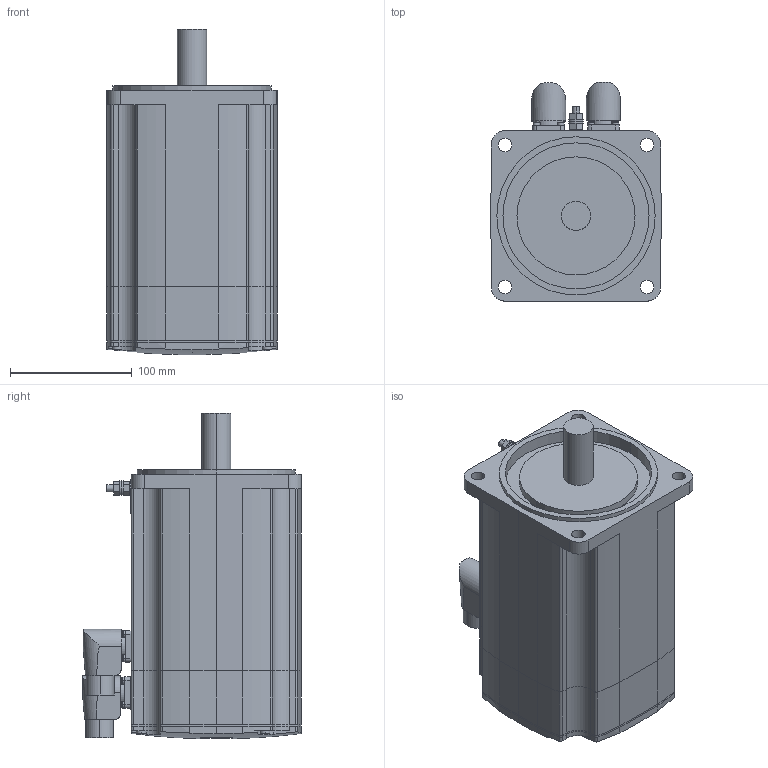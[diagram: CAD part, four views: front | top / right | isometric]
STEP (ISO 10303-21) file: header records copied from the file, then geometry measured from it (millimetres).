
FILE_DESCRIPTION (( 'STEP AP214' ), '1' );
FILE_NAME ('SH31401x0xA2100.STEP', '2013-11-29T10:06:27', ( 'Windows User' ), ( 'Schneider-Electric' ), 'SwSTEP 2.0', 'SolidWorks 2010', '' );
FILE_SCHEMA (( 'AUTOMOTIVE_DESIGN' ));
Length unit declared in the file: millimetre
Products named in the file (8): K-ENCODER-CONINVERS-ABGEW_ENCODER-CONINVERS-ABGEWINKELT_000_Single- MultiTurn; K-POWER-CONINVERS-ABGEWIN_POWER-CONINVERS-ABGEWINKELT_000_ohne Bremse; 1-100009587_K-ERDUNGSBOLZEN M6_VM1; 1-100009130_TOPFGEHÄUSE SH3-140X-X_VM0_Topfgehäuse SH3-1401-A-M23 mit Welle ohne Passfeder; 1-100009292_LAGERSCHILD SH3-140X-A_VM0_Lagerschild SH3-140x-A; 1-100010983_K-FLACHDICHTUNG BMH-MH3-140X_000; 1-100005039_DECKEL SH3-140X-X_VM0_Deckel; SH31401x0xA2100
Assembly tree (7 placements, depth 2):
  SH31401x0xA2100
    1-100009587_K-ERDUNGSBOLZEN M6_VM1
    K-POWER-CONINVERS-ABGEWIN_POWER-CONINVERS-ABGEWINKELT_000_ohne Bremse
    K-ENCODER-CONINVERS-ABGEW_ENCODER-CONINVERS-ABGEWINKELT_000_Single- MultiTurn
    1-100009130_TOPFGEHÄUSE SH3-140X-X_VM0_Topfgehäuse SH3-1401-A-M23 mit Welle ohne Passfeder
    1-100010983_K-FLACHDICHTUNG BMH-MH3-140X_000
    1-100005039_DECKEL SH3-140X-X_VM0_Deckel
    1-100009292_LAGERSCHILD SH3-140X-A_VM0_Lagerschild SH3-140x-A
Bounding box: 140 x 179.9 x 267.35 mm (x, y, z)
Volume: 3792883.3 mm3; surface area: 281570.1 mm2
Topology: 7 solids, 7 shells, 423 faces, 1049 edges, 690 vertices
Faces by surface type: cylinder 223, plane 176, torus 16, sphere 4, bspline 4
Entity records: 14194 total; most frequent: CARTESIAN_POINT 3428, DIRECTION 2338, ORIENTED_EDGE 2098, EDGE_CURVE 1049, AXIS2_PLACEMENT_3D 910, VERTEX_POINT 690, VECTOR 518, LINE 518
